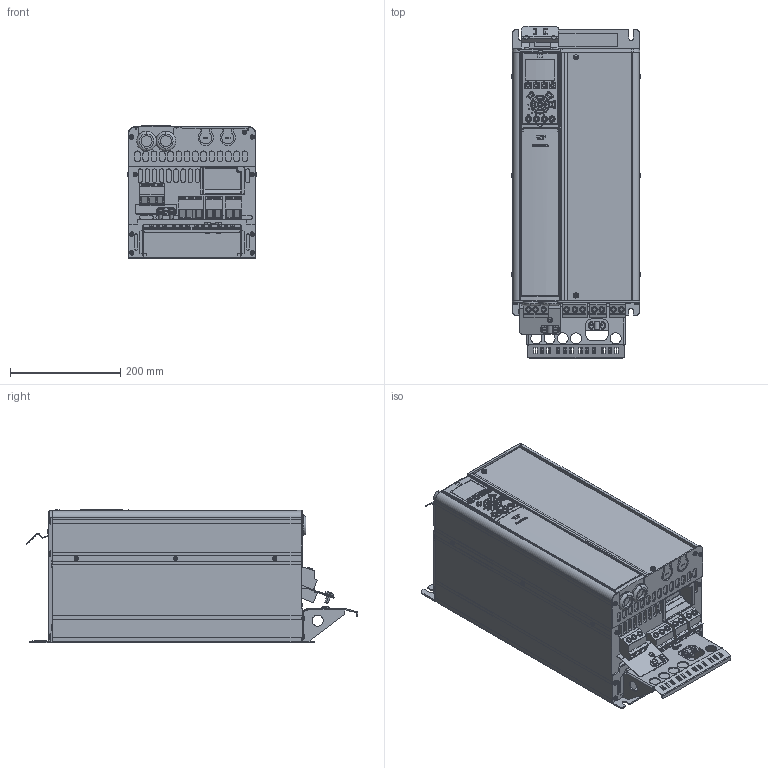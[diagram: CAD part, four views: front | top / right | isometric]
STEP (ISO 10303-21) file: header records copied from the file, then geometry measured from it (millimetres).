
FILE_DESCRIPTION((''),'2;1');
FILE_NAME('DANFOSS-FC300-B4-IP20-OPT-120','2007-07-10T',('Naushad.pm'),('dan Drives A/S'),'PRO/ENGINEER BY PARAMETRIC TECHNOLOGY CORPORATION, 2006200','PRO/ENGINEER BY PARAMETRIC TECHNOLOGY CORPORATION, 2006200','');
FILE_SCHEMA(('CONFIG_CONTROL_DESIGN', 'GEOMETRIC_VALIDATION_PROPERTIES_MIM'));
Products named in the file (1): DANFOSS-FC300-B4-IP20-OPT-120
Bounding box: 236 x 602.49 x 242.01 mm (x, y, z)
Volume: 21995103.9 mm3; surface area: 1402451.9 mm2
Topology: 1 solids, 31 shells, 4744 faces, 12651 edges, 8095 vertices
Faces by surface type: plane 2601, cylinder 1159, bspline 487, extrusion 182, torus 161, cone 78, sphere 76
Entity records: 195266 total; most frequent: CARTESIAN_POINT 66245, ORIENTED_EDGE 25142, DIRECTION 20481, EDGE_CURVE 12571, VERTEX_POINT 8095, VECTOR 7143, LINE 6961, AXIS2_PLACEMENT_3D 6669
